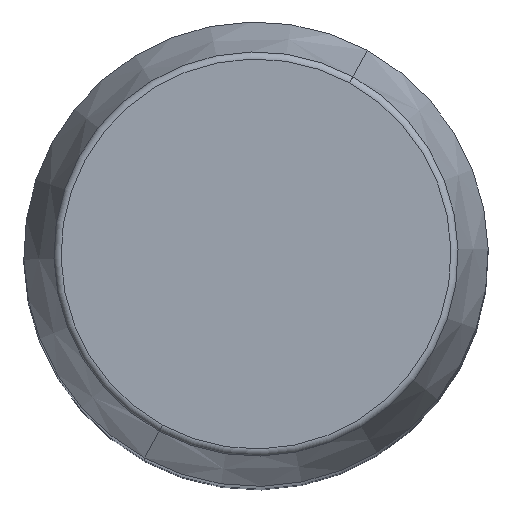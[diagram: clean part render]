
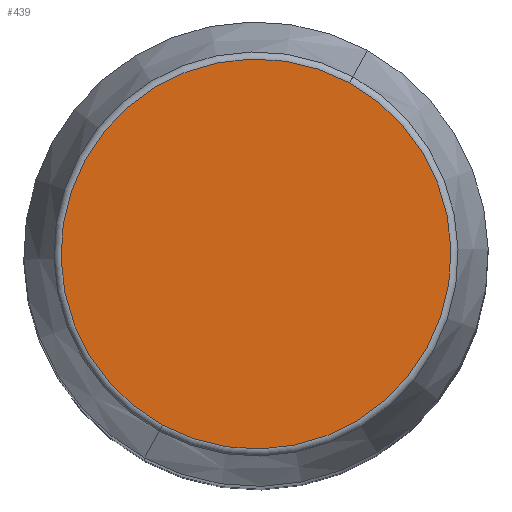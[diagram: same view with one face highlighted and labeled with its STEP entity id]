
A CAD part, top view. The second image highlights one B-rep face of the part: STEP entity #439.
In plain terms, the highlighted planar face has unit normal (0, 0, 1).
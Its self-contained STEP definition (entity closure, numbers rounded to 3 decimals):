
#391=CARTESIAN_POINT('Vertex',(-12.679,-23.208,315.)) ;
#394=CARTESIAN_POINT('Axis2P3D Location',(0.,0.,315.)) ;
#398=CARTESIAN_POINT('Vertex',(12.679,23.208,315.)) ;
#418=CARTESIAN_POINT('Axis2P3D Location',(0.,0.,315.)) ;
#430=CARTESIAN_POINT('Axis2P3D Location',(0.,26.445,315.)) ;
#395=DIRECTION('Axis2P3D Direction',(0.,0.,-1.)) ;
#419=DIRECTION('Axis2P3D Direction',(0.,0.,-1.)) ;
#431=DIRECTION('Axis2P3D Direction',(0.,0.,-1.)) ;
#432=DIRECTION('Axis2P3D XDirection',(1.,0.,0.)) ;
#396=AXIS2_PLACEMENT_3D('Circle Axis2P3D',#394,#395,$) ;
#420=AXIS2_PLACEMENT_3D('Circle Axis2P3D',#418,#419,$) ;
#433=AXIS2_PLACEMENT_3D('Plane Axis2P3D',#430,#431,#432) ;
#436=ORIENTED_EDGE('',*,*,#422,.F.) ;
#437=ORIENTED_EDGE('',*,*,#400,.F.) ;
#439=ADVANCED_FACE('PartBody',(#438),#434,.F.) ;
#397=CIRCLE('generated circle',#396,26.445) ;
#421=CIRCLE('generated circle',#420,26.445) ;
#400=EDGE_CURVE('',#392,#399,#397,.T.) ;
#422=EDGE_CURVE('',#399,#392,#421,.T.) ;
#435=EDGE_LOOP('',(#436,#437)) ;
#438=FACE_OUTER_BOUND('',#435,.T.) ;
#434=PLANE('Plane',#433) ;
#392=VERTEX_POINT('',#391) ;
#399=VERTEX_POINT('',#398) ;
